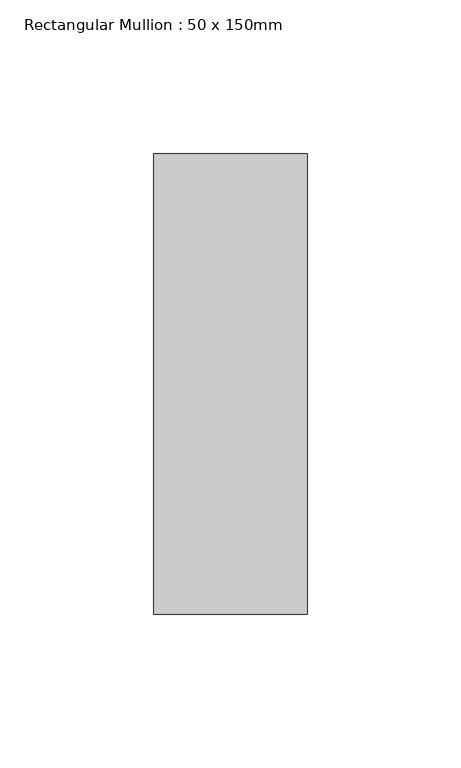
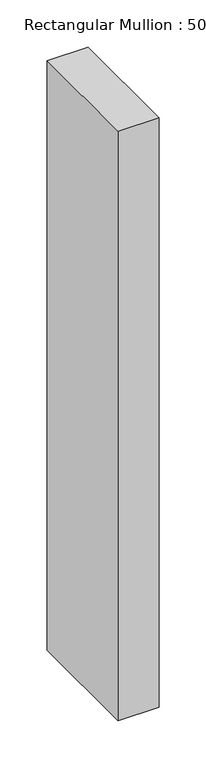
"""IFC4 building model written with IfcOpenShell, lengths in millimetres: member geometry, Rectangular Mullion : 50 x 150mm."""

import ifcopenshell
import ifcopenshell.guid

model = None  # the IFC model being written
_history = None  # IfcOwnerHistory: only IFC2X3 demands one
_inside = {}  # id of a spatial element -> (the spatial element, [elements in it])
_under = {}  # id of a project, library or spatial element -> (it, [spatial elements below it])
_declared = {}  # id of a project -> (the project, [libraries it declares])
_typed = {}  # id of a type object -> (the type object, [elements of that type])
_made_of = {}  # id of a material, layer set ... -> (it, [elements and type objects made of it])


def new_model(schema):
    """Start an empty IFC model of exactly this schema.

    Asked for "IFC4X3", IfcOpenShell would pick the latest addendum, in which some entities
    have other attributes; the version numbers below select the first issue.
    IFC2X3 requires an IfcOwnerHistory on every rooted entity: one is made here for all.
    """
    global model, _history
    if schema == "IFC4X3":
        model = ifcopenshell.file(schema_version=(4, 3, 0, 0))
    else:
        model = ifcopenshell.file(schema=schema)
    _inside.clear()
    _under.clear()
    _declared.clear()
    _typed.clear()
    _made_of.clear()
    _history = None
    if model.schema == "IFC2X3":
        org = make("IfcOrganization", Name="unknown")
        user = make(
            "IfcPersonAndOrganization",
            ThePerson=make("IfcPerson", FamilyName="unknown"),
            TheOrganization=org,
        )
        app = make(
            "IfcApplication",
            ApplicationDeveloper=org,
            Version="unknown",
            ApplicationFullName="unknown",
            ApplicationIdentifier="unknown",
        )
        _history = make(
            "IfcOwnerHistory",
            OwningUser=user,
            OwningApplication=app,
            ChangeAction="ADDED",
            CreationDate=0,
        )
    return model


def make(cls, **values):
    """One entity of the class cls with the attributes given. An attribute that is None is left unset."""
    return model.create_entity(
        cls, **{name: value for name, value in values.items() if value is not None}
    )


def rooted(cls, **values):
    """An entity with a GlobalId (a new one), such as an element, a storey or a relation."""
    return make(cls, GlobalId=ifcopenshell.guid.new(), OwnerHistory=_history, **values)


def si_unit(unit_type, name, prefix=None):
    """IfcSIUnit, for example si_unit("LENGTHUNIT", "METRE", prefix="MILLI")."""
    return make("IfcSIUnit", UnitType=unit_type, Prefix=prefix, Name=name)


def assignment(units):
    """IfcUnitAssignment: the units of a project."""
    return None if units is None else make("IfcUnitAssignment", Units=units)


def point(xyz):
    """IfcCartesianPoint."""
    return None if xyz is None else make("IfcCartesianPoint", Coordinates=xyz)


def direction(xyz):
    """IfcDirection."""
    return None if xyz is None else make("IfcDirection", DirectionRatios=xyz)


def frame(location, z_axis=None, x_axis=None):
    """IfcAxis2Placement3D, a coordinate frame: its origin and axes. An axis left out is left unset."""
    return make(
        "IfcAxis2Placement3D",
        Location=point(location),
        Axis=direction(z_axis),
        RefDirection=direction(x_axis),
    )


def origin():
    """The frame at (0, 0, 0) with its axes left unset."""
    return frame((0.0, 0.0, 0.0))


def place(relative_to, where):
    """IfcLocalPlacement: puts the frame where relative to a parent placement (None: the world)."""
    return make(
        "IfcLocalPlacement", PlacementRelTo=relative_to, RelativePlacement=where
    )


def context(
    kind, dimensions, precision=None, world=None, true_north=None, identifier=None
):
    """IfcGeometricRepresentationContext, for example the 3D "Model" context."""
    return make(
        "IfcGeometricRepresentationContext",
        ContextIdentifier=identifier,
        ContextType=kind,
        CoordinateSpaceDimension=dimensions,
        Precision=precision,
        WorldCoordinateSystem=world,
        TrueNorth=true_north,
    )


def project(units=None, contexts=None):
    """IfcProject with its units and contexts."""
    return rooted(
        "IfcProject",
        Name="project",
        RepresentationContexts=contexts,
        UnitsInContext=assignment(units),
    )


def spatial(cls, under=None, at=None, **own):
    """A site, building, storey or space (cls), placed at a placement, below another one or the project."""
    s = rooted(cls, ObjectPlacement=at, **own)
    if under is not None:
        _under.setdefault(under.id(), (under, []))[1].append(s)
    return s


def polyline(points):
    """IfcPolyline through the points."""
    return make("IfcPolyline", Points=[point(p) for p in points])


def outline(outer, holes=None, kind="AREA"):
    """IfcArbitraryClosedProfileDef: a profile drawn as a closed curve; with holes, ...WithVoids."""
    if holes is None:
        return make("IfcArbitraryClosedProfileDef", ProfileType=kind, OuterCurve=outer)
    return make(
        "IfcArbitraryProfileDefWithVoids",
        ProfileType=kind,
        OuterCurve=outer,
        InnerCurves=holes,
    )


def extrude(swept, where, along, depth):
    """IfcExtrudedAreaSolid: the profile swept, set in the frame where, extruded along a direction by depth."""
    return make(
        "IfcExtrudedAreaSolid",
        SweptArea=swept,
        Position=where,
        ExtrudedDirection=direction(along),
        Depth=depth,
    )


def shape(context_of_items, identifier, shape_type, items):
    """IfcShapeRepresentation: the items that make up one representation, for example the "Body"."""
    return make(
        "IfcShapeRepresentation",
        ContextOfItems=context_of_items,
        RepresentationIdentifier=identifier,
        RepresentationType=shape_type,
        Items=items,
    )


def source(mapping_origin, context_of_items, identifier, shape_type, items):
    """IfcRepresentationMap: a shape defined once, which mapped items show again and again."""
    return make(
        "IfcRepresentationMap",
        MappingOrigin=mapping_origin,
        MappedRepresentation=shape(context_of_items, identifier, shape_type, items),
    )


def transform(
    local_origin,
    x_axis=None,
    y_axis=None,
    z_axis=None,
    scale=None,
    scale2=None,
    scale3=None,
    uniform=True,
):
    """IfcCartesianTransformationOperator3D, or its non-uniform kind. x_axis, y_axis, z_axis: its Axis1, 2, 3."""
    if uniform:
        return make(
            "IfcCartesianTransformationOperator3D",
            Axis1=direction(x_axis),
            Axis2=direction(y_axis),
            LocalOrigin=point(local_origin),
            Scale=scale,
            Axis3=direction(z_axis),
        )
    return make(
        "IfcCartesianTransformationOperator3DnonUniform",
        Axis1=direction(x_axis),
        Axis2=direction(y_axis),
        LocalOrigin=point(local_origin),
        Scale=scale,
        Axis3=direction(z_axis),
        Scale2=scale2,
        Scale3=scale3,
    )


def mapped(mapping_source, mapping_target):
    """IfcMappedItem: shows the shape of a source again, moved by a transform."""
    return make(
        "IfcMappedItem", MappingSource=mapping_source, MappingTarget=mapping_target
    )


def made_of(thing, what):
    """Note that an element or type object is made of a material, layer set ...; save() writes the relation."""
    if what is not None:
        _made_of.setdefault(what.id(), (what, []))[1].append(thing)
    return thing


def element(
    cls,
    number,
    at=None,
    inside=None,
    cuts=None,
    type_object=None,
    material=None,
    context=None,
    identifier="Body",
    shape_type=None,
    held_by="IfcProductDefinitionShape",
    body=None,
    shapes=None,
    **own,
):
    """One element of the class cls, such as IfcWall. Its Tag is "e" and its number.

    at: its placement. inside: the storey or other place that contains it. cuts: it is an
    opening in that element (IfcRelVoidsElement). A single representation is given by context,
    identifier, shape_type and body (its items); several are given by shapes. held_by: the class
    of the entity that holds the representations. save() writes the other relations.
    """
    e = rooted(cls, Tag="e%d" % number, ObjectPlacement=at, **own)
    if body is not None:
        shapes = [shape(context, identifier, shape_type, body)]
    if shapes is not None:
        e.Representation = make(held_by, Representations=shapes)
    if inside is not None:
        _inside.setdefault(inside.id(), (inside, []))[1].append(e)
    if cuts is not None:
        rooted(
            "IfcRelVoidsElement", RelatingBuildingElement=cuts, RelatedOpeningElement=e
        )
    if type_object is not None:
        _typed.setdefault(type_object.id(), (type_object, []))[1].append(e)
    return made_of(e, material)


def aggregate(whole, parts):
    """IfcRelAggregates: a whole, such as a stair, and the parts it consists of."""
    return rooted("IfcRelAggregates", RelatingObject=whole, RelatedObjects=parts)


def save(model, path):
    """Write the relations noted so far, then the file.

    IfcRelAggregates (storeys below a building ...), IfcRelContainedInSpatialStructure (elements
    in a storey), IfcRelDefinesByType, IfcRelAssociatesMaterial and IfcRelDeclares: one each for
    every whole, place, type object, material and project.
    """
    for whole, parts in _under.values():
        aggregate(whole, parts)
    for where, things in _inside.values():
        rooted(
            "IfcRelContainedInSpatialStructure",
            RelatedElements=things,
            RelatingStructure=where,
        )
    for kind, things in _typed.values():
        rooted("IfcRelDefinesByType", RelatedObjects=things, RelatingType=kind)
    for what, things in _made_of.values():
        rooted("IfcRelAssociatesMaterial", RelatedObjects=things, RelatingMaterial=what)
    for by, libraries in _declared.values():
        rooted("IfcRelDeclares", RelatingContext=by, RelatedDefinitions=libraries)
    model.write(path)


def rectangular_mullion_50_x_150mm_8b63fd42(model_context):
    return source(origin(), model_context, "Body", "SweptSolid", [
        extrude(outline(polyline([(25.0, 75.0), (25.0, -75.0), (-25.0, -75.0), (-25.0, 75.0), (25.0, 75.0)])), frame((0.0, 0.0, -760.6154779), z_axis=(0.0, 0.0, 1.0), x_axis=(1.0, 0.0, 0.0)), (0.0, 0.0, 1.0), 760.6154779),
    ])


if __name__ == "__main__":
    model = new_model("IFC4")
    model_context = context("Model", 3, world=origin())
    ifc_project = project(units=[si_unit("LENGTHUNIT", "METRE", prefix="MILLI")], contexts=[model_context])
    site = spatial("IfcSite", under=ifc_project)
    building = spatial("IfcBuilding", under=site)
    placement = place(None, origin())
    rectangular_mullion_50_x_150mm_shape = rectangular_mullion_50_x_150mm_8b63fd42(model_context)
    element("IfcMember", 1, ObjectType="Rectangular Mullion : 50 x 150mm", at=placement, inside=building, context=model_context, shape_type="MappedRepresentation", body=[
        mapped(rectangular_mullion_50_x_150mm_shape, transform((0.0, 0.0, 0.0), x_axis=(1.0, 0.0, 0.0), y_axis=(0.0, 1.0, 0.0), z_axis=(0.0, 0.0, 1.0))),
    ])
    save(model, "model.ifc")
